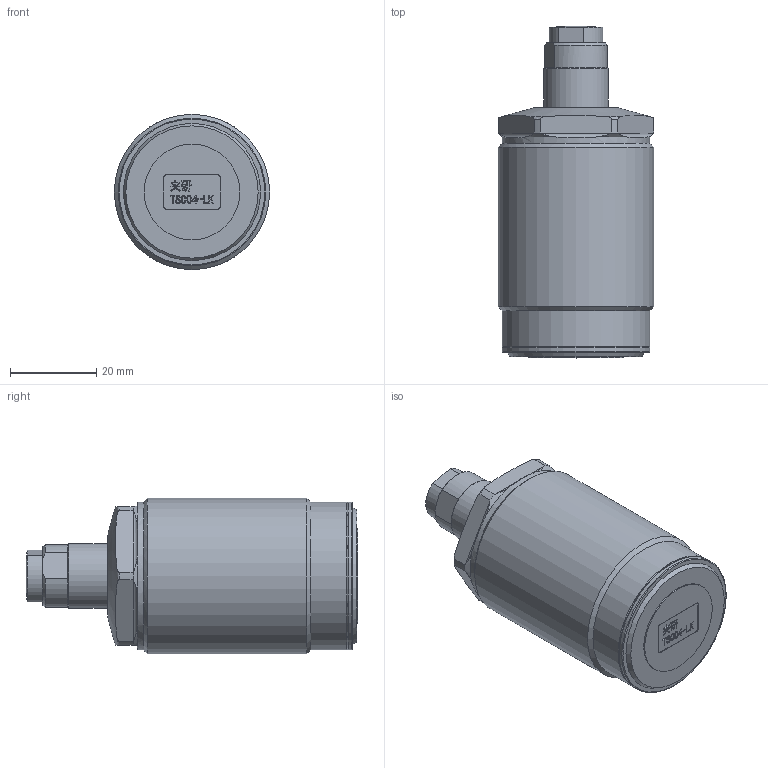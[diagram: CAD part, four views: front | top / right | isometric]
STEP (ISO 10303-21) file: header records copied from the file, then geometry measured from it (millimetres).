
FILE_DESCRIPTION(/* description */ (''),/* implementation_level */ '2;1');
FILE_NAME(/* name */ 'TSC04-LK.stp',/* time_stamp */ '2022-05-04T14:58:18+08:00',/* author */ (''),/* organization */ (''),/* preprocessor_version */ 'ST-DEVELOPER v16.7',/* originating_system */ 'SIEMENS PLM Software NX 12.0',/* authorisation */ '');
FILE_SCHEMA (('AUTOMOTIVE_DESIGN { 1 0 10303 214 3 1 1 1 }'));
Length unit declared in the file: millimetre
Products named in the file (1): TSC04-LK
Bounding box: 36 x 76.92 x 36 mm (x, y, z)
Volume: 58576 mm3; surface area: 11631.9 mm2
Topology: 3 solids, 3 shells, 268 faces, 693 edges, 455 vertices
Faces by surface type: plane 148, extrusion 58, cylinder 32, cone 16, torus 13, sphere 1
Full cylindrical faces by diameter (mm): 5 x1, 7.8 x1, 10 x2, 10.3 x1, 15 x2, 22.16 x1, 34.2 x3, 36 x1
Entity records: 10363 total; most frequent: CARTESIAN_POINT 2915, ORIENTED_EDGE 1322, DIRECTION 1053, EDGE_CURVE 661, VECTOR 459, VERTEX_POINT 452, LINE 401, EDGE_LOOP 321
